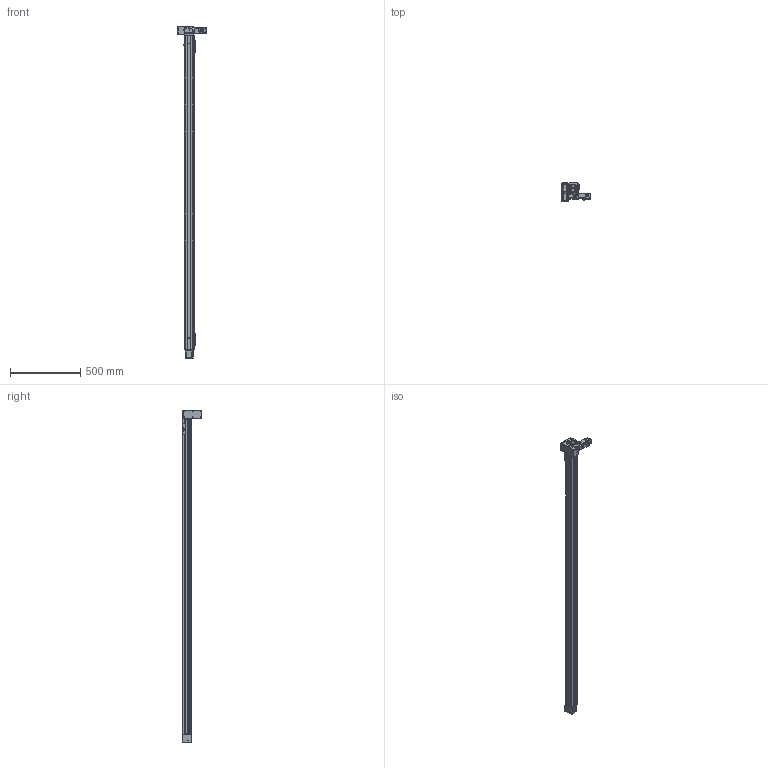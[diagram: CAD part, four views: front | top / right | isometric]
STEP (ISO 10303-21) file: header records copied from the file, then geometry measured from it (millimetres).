
FILE_DESCRIPTION(/* description */ (''),/* implementation_level */ '2;1');
FILE_NAME(/* name */ '\\192.168.0.160\disk1\HAN SHIN Master\B-설계부문\C-표준\B-2024년\BC02-표준도면\+로봇 개선표준도면\홈페이지 표준 도면\홈페이지 최종 작업 폴더\3D\HSB\HSB55\HSB55-DL1G-N-2100-R.stp',/* time_stamp */ '2025-06-19T20:22:49+09:00',/* author */ ('user'),/* organization */ (''),/* preprocessor_version */ 'ST-DEVELOPER v18.1',/* originating_system */ 'Autodesk Inventor 2022',/* authorisation */ '');
FILE_SCHEMA (('AUTOMOTIVE_DESIGN { 1 0 10303 214 3 1 1 }'));
Products named in the file (41): HSB55-DL1G-N-0500-R; HSB55 BASE; HSB55 TABLE; UPCOVER; HSB55 HOUSING (Connecting); HSB160 SHAFT-1; HSB55 FRONT HOUSIONG; HSB55 REAR SHAFT-1; HSB55 REAR SHAFT; HSB55 DOWN CLAMP; M4-25(렌치볼트); HSB55 HOUSING-R1; HSB55 TENSION PLATE; ISO 4032 - M4; HSB160 BEARING OVER; HSB55 UP CLAMP; HR45 SENSOR DOG; HR45 SENSOR RAIL; hsr_ftht_A-M6F_grease_nipple_joint; NIPPLE CAP(신규); SIDE COVER_대칭도; SIDE COVER; HR45 STOPPER; HSB55 END COVER; EC-6202ZZ; EC-6202ZZ Inner ring; EC-6202ZZ Outer ring; EC-6202ZZ St; EC-6202ZZ Ball; EC-6202ZZ B1; HSB55 ACRYL COVER-R1; HSB55 ACRYL COVER; EE_SX674A; PGX44-H-1_3; hg-kr13_; MOTOR PLATE-100W(MITSUBISHI); HR65-BELT COVER-COVER; HR65-BELT COVER-COVER3; HSB55 D MOTOR PLATE; HSB55 D BELT COVER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
Assembly tree (64 placements, depth 3):
  HSB55-DL1G-N-0500-R
    HSB55 BASE
    HSB55 TABLE
    UPCOVER
    HSB55 FRONT HOUSIONG  x2
    HSB55 HOUSING (Connecting)
    HSB160 SHAFT-1
    HSB55 REAR SHAFT-1
    #134379  x2
    HSB55 REAR SHAFT
    HSB55 DOWN CLAMP  x2
    HSB55 UP CLAMP  x2
    M4-25(렌치볼트)
    ISO 4032 - M4  x2
    HSB55 HOUSING-R1
    HSB55 TENSION PLATE  x2
    HSB160 BEARING OVER
    HR45 SENSOR DOG
    HR45 SENSOR RAIL  x2
    EE_SX674A  x3
    hsr_ftht_A-M6F_grease_nipple_joint
    NIPPLE CAP(신규)
    SIDE COVER_대칭도
    SIDE COVER
    HR45 STOPPER  x2
    HSB55 END COVER
    EC-6202ZZ  x2
      EC-6202ZZ Inner ring
      EC-6202ZZ Outer ring
      EC-6202ZZ B1
      EC-6202ZZ St
      EC-6202ZZ Ball
    HSB55 ACRYL COVER  x4
    HSB55 ACRYL COVER-R1
    PGX44-H-1_3
    hg-kr13_
    MOTOR PLATE-100W(MITSUBISHI)
    HR65-BELT COVER-COVER
    HR65-BELT COVER-COVER3
    HSB55 D MOTOR PLATE
    HSB55 D BELT COVER
    HR65-BELT COVER-COVER2  x2
Bounding box: 201.4 x 142.7 x 2370 mm (x, y, z)
Volume: 3799579.9 mm3; surface area: 1731453.6 mm2
Topology: 90 solids, 90 shells, 5302 faces, 14588 edges, 9543 vertices
Faces by surface type: plane 3660, cylinder 1272, cone 291, torus 35, sphere 22, bspline 22
Full cylindrical faces by diameter (mm): 1 x2, 2 x3, 2.013 x4, 2.459 x102, 2.5 x5, 3 x3, 3.242 x80, 3.3 x9, 3.4 x22, 3.5 x75, 4 x11, 4.134 x24, 4.2 x4, 4.5 x45, 4.917 x2, 5 x8, 5.5 x1, 5.6 x3, 5.9 x2, 6 x46, 6.5 x4, 7 x5, 7.5 x4, 8 x20, 8.2 x1, 9 x2, 9.5 x2, 10 x1, 11.5 x2, 12 x6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
Entity records: 134333 total; most frequent: CARTESIAN_POINT 27245, ORIENTED_EDGE 22018, DIRECTION 21634, EDGE_CURVE 11009, LINE 7712, VECTOR 7712, VERTEX_POINT 7243, AXIS2_PLACEMENT_3D 6961
